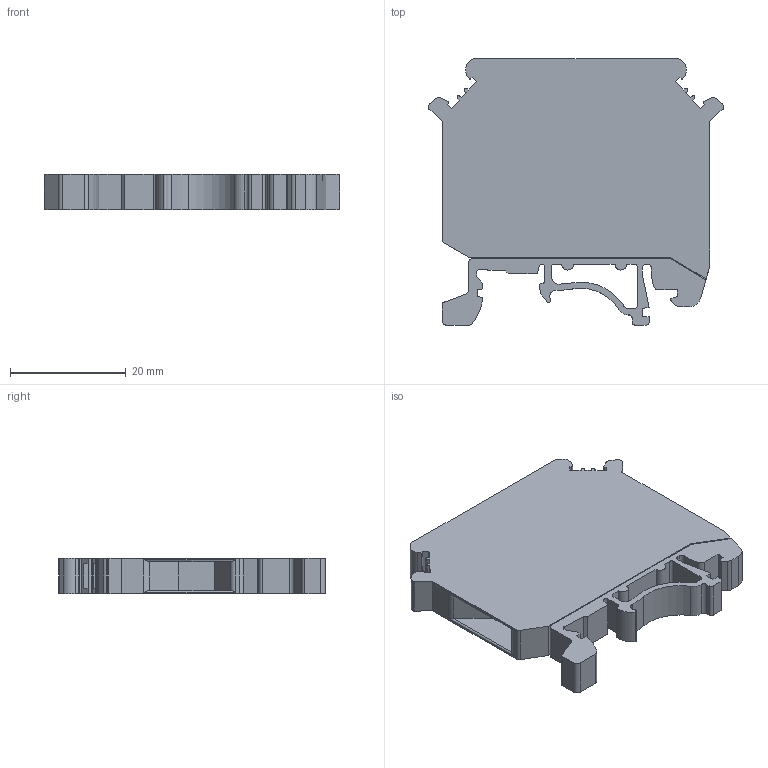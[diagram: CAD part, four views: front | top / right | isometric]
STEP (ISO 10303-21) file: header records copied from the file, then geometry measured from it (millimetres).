
FILE_DESCRIPTION((''),'2;1');
FILE_NAME('PCMT4_ASM','2020-05-22T',('Administrator'),(''),'PRO/ENGINEER BY PARAMETRIC TECHNOLOGY CORPORATION, 2014000','PRO/ENGINEER BY PARAMETRIC TECHNOLOGY CORPORATION, 2014000','');
FILE_SCHEMA(('CONFIG_CONTROL_DESIGN'));
Length unit declared in the file: millimetre
Products named in the file (1): PCMT4_ASM
Bounding box: 51 x 46 x 6.2 mm (x, y, z)
Volume: 9941.5 mm3; surface area: 6162.3 mm2
Topology: 1 solids, 1 shells, 203 faces, 624 edges, 433 vertices
Faces by surface type: plane 133, cylinder 70
Entity records: 7153 total; most frequent: CARTESIAN_POINT 1381, ORIENTED_EDGE 1248, DIRECTION 1146, EDGE_CURVE 624, VECTOR 484, LINE 484, VERTEX_POINT 433, AXIS2_PLACEMENT_3D 331
